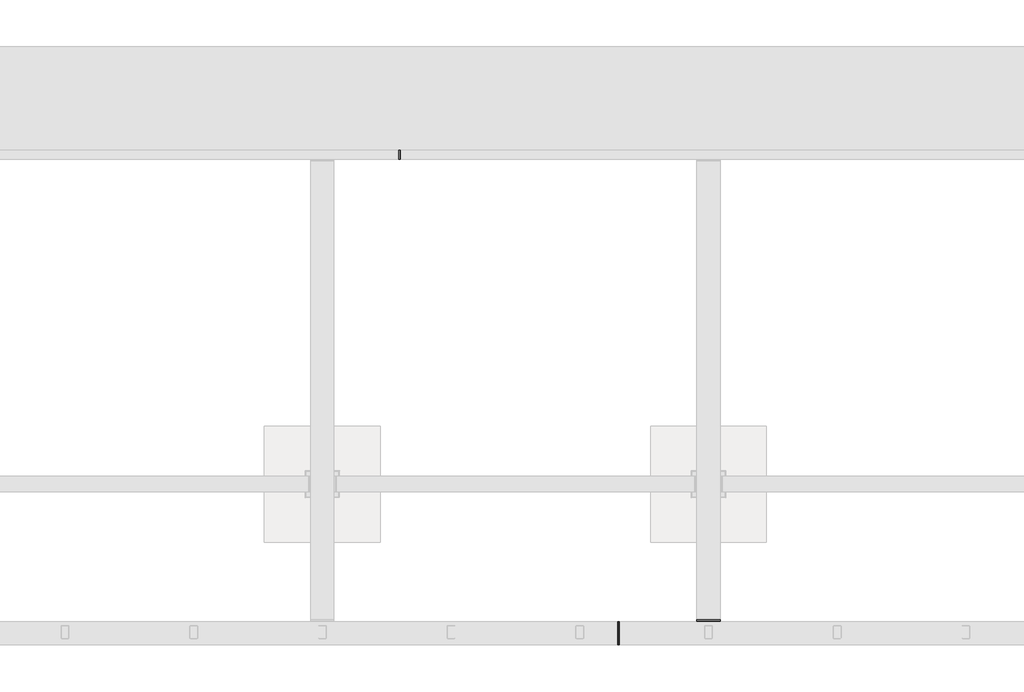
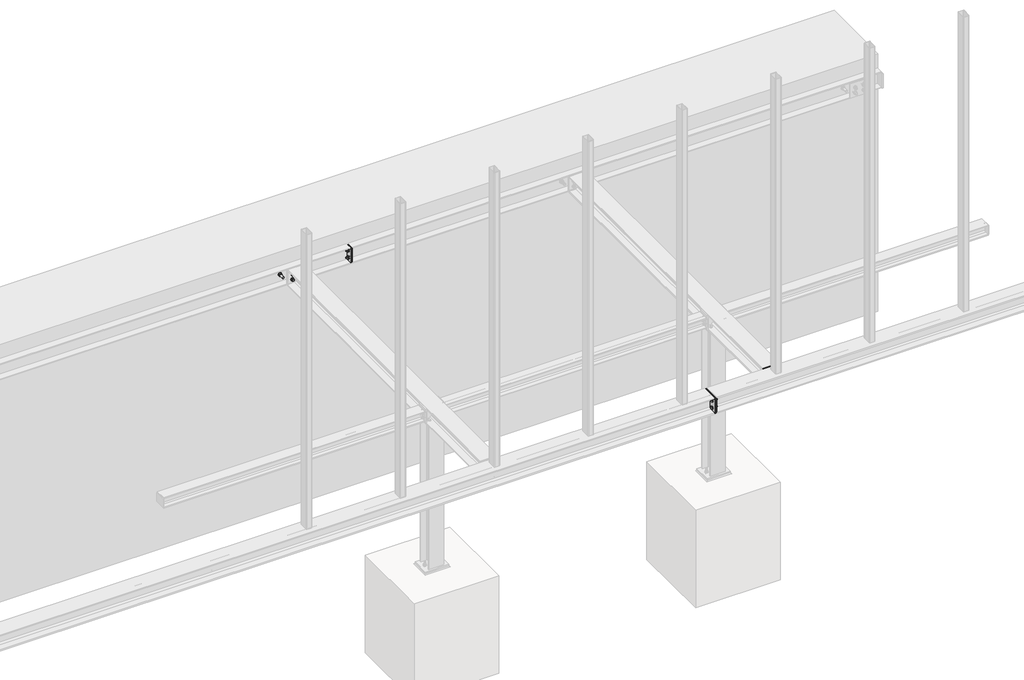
# One storey, part 9 of 31: 11 proxies.
"""IFC4 building model written with IfcOpenShell, lengths in millimetres."""

from ifc_helpers import new_model, si_unit, point, frame, frame_2d, origin, place, context, project, spatial, polyline, circle_curve, trimmed, segment, composite_curve, outline, extrude, element, save

model = new_model("IFC4")

# Units and contexts
model_context = context("Model", 3, world=origin())
ifc_project = project(units=[si_unit("LENGTHUNIT", "METRE", prefix="MILLI")], contexts=[model_context])

# Site, building, storey
site = spatial("IfcSite", under=ifc_project)
building = spatial("IfcBuilding", under=site)
storey = spatial("IfcBuildingStorey", under=building, Name="Základy", Elevation=-1200.0)

# Proxies
placement = place(None, origin())
element("IfcBuildingElementProxy", 1, Name="PLECH", ObjectType="PLECH", at=placement, inside=storey, context=model_context, shape_type="SweptSolid", body=[
    extrude(outline(polyline([(8960.0, 210.0), (9140.0, 210.0), (9140.0, 200.0), (8960.0, 200.0), (8960.0, 210.0)])), frame((0.0, 0.0, -332.0), z_axis=(0.0, 0.0, 1.0), x_axis=(1.0, 0.0, 0.0)), (0.0, 0.0, 1.0), 164.0),
])
element("IfcBuildingElementProxy", 2, Name="PLECH", ObjectType="PLECH", at=placement, inside=storey, context=model_context, shape_type="SweptSolid", body=[
    extrude(outline(polyline([(6650.0, 3855.0), (6650.0, 3785.0), (6640.0, 3785.0), (6640.0, 3855.0), (6650.0, 3855.0)])), frame((0.0, 0.0, -329.5), z_axis=(0.0, 0.0, 1.0), x_axis=(1.0, 0.0, 0.0)), (0.0, 0.0, 1.0), 159.0),
])
element("IfcBuildingElementProxy", 3, Name="PLECH", ObjectType="PLECH", at=placement, inside=storey, context=model_context, shape_type="SweptSolid", body=[
    extrude(outline(polyline([(8350.0, 190.0), (8350.0, 10.0), (8340.0, 10.0), (8340.0, 190.0), (8350.0, 190.0)])), frame((0.0, 0.0, -332.0), z_axis=(0.0, 0.0, 1.0), x_axis=(1.0, 0.0, 0.0)), (0.0, 0.0, 1.0), 164.0),
])
element("IfcBuildingElementProxy", 4, Name="PLECH", ObjectType="PLECH", at=placement, inside=storey, context=model_context, shape_type="SweptSolid", body=[
    extrude(outline(polyline([(6660.0, 3855.0), (6660.0, 3785.0), (6650.0, 3785.0), (6650.0, 3855.0), (6660.0, 3855.0)])), frame((0.0, 0.0, -329.5), z_axis=(0.0, 0.0, 1.0), x_axis=(1.0, 0.0, 0.0)), (0.0, 0.0, 1.0), 159.0),
])
element("IfcBuildingElementProxy", 5, Name="PLECH", ObjectType="PLECH", at=placement, inside=storey, context=model_context, shape_type="SweptSolid", body=[
    extrude(outline(composite_curve([segment(polyline([(190.0, -174.0), (190.0, -326.0), (124.25, -326.0)]), True, "CONTINUOUS"), segment(trimmed(circle_curve(frame_2d((104.25, -326.0)), 20.0), [point((124.25, -326.0))], [point((104.25, -306.0))], True, "CARTESIAN"), True, "CONTINUOUS"), segment(polyline([(104.25, -306.0), (104.25, -194.0)]), True, "CONTINUOUS"), segment(trimmed(circle_curve(frame_2d((104.25, -174.0)), 20.0), [point((104.25, -194.0))], [point((124.25, -174.0))], True, "CARTESIAN"), True, "CONTINUOUS"), segment(polyline([(124.25, -174.0), (190.0, -174.0)]), True, "CONTINUOUS")], self_intersect=False)), frame((9046.0, 0.0, 0.0), z_axis=(1.0, 0.0, 0.0), x_axis=(0.0, 1.0, 0.0)), (0.0, 0.0, 1.0), 8.0),
])
element("IfcBuildingElementProxy", 6, Name="PLECH", ObjectType="PLECH", at=placement, inside=storey, context=model_context, shape_type="SweptSolid", body=[
    extrude(outline(polyline([(8960.0, 200.0), (9140.0, 200.0), (9140.0, 190.0), (8960.0, 190.0), (8960.0, 200.0)])), frame((0.0, 0.0, -332.0), z_axis=(0.0, 0.0, 1.0), x_axis=(1.0, 0.0, 0.0)), (0.0, 0.0, 1.0), 164.0),
])
element("IfcBuildingElementProxy", 7, Name="PLECH", ObjectType="PLECH", at=placement, inside=storey, context=model_context, shape_type="SweptSolid", body=[
    extrude(outline(polyline([(8360.0, 190.0), (8360.0, 10.0), (8350.0, 10.0), (8350.0, 190.0), (8360.0, 190.0)])), frame((0.0, 0.0, -332.0), z_axis=(0.0, 0.0, 1.0), x_axis=(1.0, 0.0, 0.0)), (0.0, 0.0, 1.0), 164.0),
])
element("IfcBuildingElementProxy", 8, Name="Bolt assembly", ObjectType="Bolt assembly", at=placement, inside=storey, context=model_context, shape_type="SweptSolid", body=[
    extrude(outline(composite_curve([segment(trimmed(circle_curve(frame_2d((-220.0, 6005.0)), 9.0), [point((-220.0, 6014.0))], [point((-220.0, 5996.0))], False, "CARTESIAN"), True, "CONTINUOUS"), segment(trimmed(circle_curve(frame_2d((-220.0, 6005.0)), 9.0), [point((-220.0, 5996.0))], [point((-220.0, 6014.0))], False, "CARTESIAN"), True, "CONTINUOUS")], self_intersect=False)), frame((0.0, 3774.9, 0.0), z_axis=(0.0, 1.0, 0.0), x_axis=(0.0, 0.0, 1.0)), (0.0, 0.0, 1.0), 10.0),
    extrude(outline(polyline([(-220.0, 6018.8564065), (-208.0, 6011.9282032), (-208.0, 5998.0717968), (-220.0, 5991.1435935), (-232.0, 5998.0717968), (-232.0, 6011.9282032), (-220.0, 6018.8564065)])), frame((0.0, 3788.0, 0.0), z_axis=(0.0, 1.0, 0.0), x_axis=(0.0, 0.0, 1.0)), (0.0, 0.0, 1.0), 10.0),
    extrude(outline(composite_curve([segment(trimmed(circle_curve(frame_2d((-220.0, 6005.0)), 8.0), [point((-220.0, 6013.0))], [point((-220.0, 5997.0))], False, "CARTESIAN"), True, "CONTINUOUS"), segment(trimmed(circle_curve(frame_2d((-220.0, 6005.0)), 8.0), [point((-220.0, 5997.0))], [point((-220.0, 6013.0))], False, "CARTESIAN"), True, "CONTINUOUS")], self_intersect=False)), frame((0.0, 3738.0, 0.0), z_axis=(0.0, 1.0, 0.0), x_axis=(0.0, 0.0, 1.0)), (0.0, 0.0, 1.0), 50.0),
    extrude(outline(composite_curve([segment(trimmed(circle_curve(frame_2d((-220.0, 6005.0)), 15.0), [point((-220.0, 6020.0))], [point((-220.0, 5990.0))], False, "CARTESIAN"), True, "CONTINUOUS"), segment(trimmed(circle_curve(frame_2d((-220.0, 6005.0)), 15.0), [point((-220.0, 5990.0))], [point((-220.0, 6020.0))], False, "CARTESIAN"), True, "CONTINUOUS")], self_intersect=False)), frame((0.0, 3785.0, 0.0), z_axis=(0.0, 1.0, 0.0), x_axis=(0.0, 0.0, 1.0)), (0.0, 0.0, 1.0), 3.0),
    extrude(outline(composite_curve([segment(trimmed(circle_curve(frame_2d((-220.0, 6005.0)), 15.0), [point((-220.0, 6020.0))], [point((-220.0, 5990.0))], False, "CARTESIAN"), True, "CONTINUOUS"), segment(trimmed(circle_curve(frame_2d((-220.0, 6005.0)), 15.0), [point((-220.0, 5990.0))], [point((-220.0, 6020.0))], False, "CARTESIAN"), True, "CONTINUOUS")], self_intersect=False)), frame((0.0, 3764.0, 0.0), z_axis=(0.0, 1.0, 0.0), x_axis=(0.0, 0.0, 1.0)), (0.0, 0.0, 1.0), 3.0),
    extrude(outline(polyline([(-220.0, 6020.4441197), (-206.625, 6012.7220599), (-206.625, 5997.2779401), (-220.0, 5989.5558803), (-233.375, 5997.2779401), (-233.375, 6012.7220599), (-220.0, 6020.4441197)])), frame((0.0, 3751.0, 0.0), z_axis=(0.0, 1.0, 0.0), x_axis=(0.0, 0.0, 1.0)), (0.0, 0.0, 1.0), 13.0),
    extrude(outline(composite_curve([segment(trimmed(circle_curve(frame_2d((-220.0, 6005.0)), 9.0), [point((-220.0, 6014.0))], [point((-220.0, 5996.0))], False, "CARTESIAN"), True, "CONTINUOUS"), segment(trimmed(circle_curve(frame_2d((-220.0, 6005.0)), 9.0), [point((-220.0, 5996.0))], [point((-220.0, 6014.0))], False, "CARTESIAN"), True, "CONTINUOUS")], self_intersect=False)), frame((0.0, 3767.0, 0.0), z_axis=(0.0, 1.0, 0.0), x_axis=(0.0, 0.0, 1.0)), (0.0, 0.0, 1.0), 8.1),
    extrude(outline(composite_curve([segment(trimmed(circle_curve(frame_2d((-220.0, 6095.0)), 9.0), [point((-220.0, 6104.0))], [point((-220.0, 6086.0))], False, "CARTESIAN"), True, "CONTINUOUS"), segment(trimmed(circle_curve(frame_2d((-220.0, 6095.0)), 9.0), [point((-220.0, 6086.0))], [point((-220.0, 6104.0))], False, "CARTESIAN"), True, "CONTINUOUS")], self_intersect=False)), frame((0.0, 3774.9, 0.0), z_axis=(0.0, 1.0, 0.0), x_axis=(0.0, 0.0, 1.0)), (0.0, 0.0, 1.0), 10.0),
    extrude(outline(polyline([(-220.0, 6108.8564065), (-208.0, 6101.9282032), (-208.0, 6088.0717968), (-220.0, 6081.1435935), (-232.0, 6088.0717968), (-232.0, 6101.9282032), (-220.0, 6108.8564065)])), frame((0.0, 3788.0, 0.0), z_axis=(0.0, 1.0, 0.0), x_axis=(0.0, 0.0, 1.0)), (0.0, 0.0, 1.0), 10.0),
    extrude(outline(composite_curve([segment(trimmed(circle_curve(frame_2d((-220.0, 6095.0)), 8.0), [point((-220.0, 6103.0))], [point((-220.0, 6087.0))], False, "CARTESIAN"), True, "CONTINUOUS"), segment(trimmed(circle_curve(frame_2d((-220.0, 6095.0)), 8.0), [point((-220.0, 6087.0))], [point((-220.0, 6103.0))], False, "CARTESIAN"), True, "CONTINUOUS")], self_intersect=False)), frame((0.0, 3738.0, 0.0), z_axis=(0.0, 1.0, 0.0), x_axis=(0.0, 0.0, 1.0)), (0.0, 0.0, 1.0), 50.0),
    extrude(outline(composite_curve([segment(trimmed(circle_curve(frame_2d((-220.0, 6095.0)), 15.0), [point((-220.0, 6110.0))], [point((-220.0, 6080.0))], False, "CARTESIAN"), True, "CONTINUOUS"), segment(trimmed(circle_curve(frame_2d((-220.0, 6095.0)), 15.0), [point((-220.0, 6080.0))], [point((-220.0, 6110.0))], False, "CARTESIAN"), True, "CONTINUOUS")], self_intersect=False)), frame((0.0, 3785.0, 0.0), z_axis=(0.0, 1.0, 0.0), x_axis=(0.0, 0.0, 1.0)), (0.0, 0.0, 1.0), 3.0),
    extrude(outline(composite_curve([segment(trimmed(circle_curve(frame_2d((-220.0, 6095.0)), 15.0), [point((-220.0, 6110.0))], [point((-220.0, 6080.0))], False, "CARTESIAN"), True, "CONTINUOUS"), segment(trimmed(circle_curve(frame_2d((-220.0, 6095.0)), 15.0), [point((-220.0, 6080.0))], [point((-220.0, 6110.0))], False, "CARTESIAN"), True, "CONTINUOUS")], self_intersect=False)), frame((0.0, 3764.0, 0.0), z_axis=(0.0, 1.0, 0.0), x_axis=(0.0, 0.0, 1.0)), (0.0, 0.0, 1.0), 3.0),
    extrude(outline(polyline([(-220.0, 6110.4441197), (-206.625, 6102.7220599), (-206.625, 6087.2779401), (-220.0, 6079.5558803), (-233.375, 6087.2779401), (-233.375, 6102.7220599), (-220.0, 6110.4441197)])), frame((0.0, 3751.0, 0.0), z_axis=(0.0, 1.0, 0.0), x_axis=(0.0, 0.0, 1.0)), (0.0, 0.0, 1.0), 13.0),
    extrude(outline(composite_curve([segment(trimmed(circle_curve(frame_2d((-220.0, 6095.0)), 9.0), [point((-220.0, 6104.0))], [point((-220.0, 6086.0))], False, "CARTESIAN"), True, "CONTINUOUS"), segment(trimmed(circle_curve(frame_2d((-220.0, 6095.0)), 9.0), [point((-220.0, 6086.0))], [point((-220.0, 6104.0))], False, "CARTESIAN"), True, "CONTINUOUS")], self_intersect=False)), frame((0.0, 3767.0, 0.0), z_axis=(0.0, 1.0, 0.0), x_axis=(0.0, 0.0, 1.0)), (0.0, 0.0, 1.0), 8.1),
    extrude(outline(composite_curve([segment(trimmed(circle_curve(frame_2d((-280.0, 6005.0)), 9.0), [point((-280.0, 6014.0))], [point((-280.0, 5996.0))], False, "CARTESIAN"), True, "CONTINUOUS"), segment(trimmed(circle_curve(frame_2d((-280.0, 6005.0)), 9.0), [point((-280.0, 5996.0))], [point((-280.0, 6014.0))], False, "CARTESIAN"), True, "CONTINUOUS")], self_intersect=False)), frame((0.0, 3774.9, 0.0), z_axis=(0.0, 1.0, 0.0), x_axis=(0.0, 0.0, 1.0)), (0.0, 0.0, 1.0), 10.0),
    extrude(outline(polyline([(-280.0, 6018.8564065), (-268.0, 6011.9282032), (-268.0, 5998.0717968), (-280.0, 5991.1435935), (-292.0, 5998.0717968), (-292.0, 6011.9282032), (-280.0, 6018.8564065)])), frame((0.0, 3788.0, 0.0), z_axis=(0.0, 1.0, 0.0), x_axis=(0.0, 0.0, 1.0)), (0.0, 0.0, 1.0), 10.0),
    extrude(outline(composite_curve([segment(trimmed(circle_curve(frame_2d((-280.0, 6005.0)), 8.0), [point((-280.0, 6013.0))], [point((-280.0, 5997.0))], False, "CARTESIAN"), True, "CONTINUOUS"), segment(trimmed(circle_curve(frame_2d((-280.0, 6005.0)), 8.0), [point((-280.0, 5997.0))], [point((-280.0, 6013.0))], False, "CARTESIAN"), True, "CONTINUOUS")], self_intersect=False)), frame((0.0, 3738.0, 0.0), z_axis=(0.0, 1.0, 0.0), x_axis=(0.0, 0.0, 1.0)), (0.0, 0.0, 1.0), 50.0),
    extrude(outline(composite_curve([segment(trimmed(circle_curve(frame_2d((-280.0, 6005.0)), 15.0), [point((-280.0, 6020.0))], [point((-280.0, 5990.0))], False, "CARTESIAN"), True, "CONTINUOUS"), segment(trimmed(circle_curve(frame_2d((-280.0, 6005.0)), 15.0), [point((-280.0, 5990.0))], [point((-280.0, 6020.0))], False, "CARTESIAN"), True, "CONTINUOUS")], self_intersect=False)), frame((0.0, 3785.0, 0.0), z_axis=(0.0, 1.0, 0.0), x_axis=(0.0, 0.0, 1.0)), (0.0, 0.0, 1.0), 3.0),
    extrude(outline(composite_curve([segment(trimmed(circle_curve(frame_2d((-280.0, 6005.0)), 15.0), [point((-280.0, 6020.0))], [point((-280.0, 5990.0))], False, "CARTESIAN"), True, "CONTINUOUS"), segment(trimmed(circle_curve(frame_2d((-280.0, 6005.0)), 15.0), [point((-280.0, 5990.0))], [point((-280.0, 6020.0))], False, "CARTESIAN"), True, "CONTINUOUS")], self_intersect=False)), frame((0.0, 3764.0, 0.0), z_axis=(0.0, 1.0, 0.0), x_axis=(0.0, 0.0, 1.0)), (0.0, 0.0, 1.0), 3.0),
    extrude(outline(polyline([(-280.0, 6020.4441197), (-266.625, 6012.7220599), (-266.625, 5997.2779401), (-280.0, 5989.5558803), (-293.375, 5997.2779401), (-293.375, 6012.7220599), (-280.0, 6020.4441197)])), frame((0.0, 3751.0, 0.0), z_axis=(0.0, 1.0, 0.0), x_axis=(0.0, 0.0, 1.0)), (0.0, 0.0, 1.0), 13.0),
    extrude(outline(composite_curve([segment(trimmed(circle_curve(frame_2d((-280.0, 6005.0)), 9.0), [point((-280.0, 6014.0))], [point((-280.0, 5996.0))], False, "CARTESIAN"), True, "CONTINUOUS"), segment(trimmed(circle_curve(frame_2d((-280.0, 6005.0)), 9.0), [point((-280.0, 5996.0))], [point((-280.0, 6014.0))], False, "CARTESIAN"), True, "CONTINUOUS")], self_intersect=False)), frame((0.0, 3767.0, 0.0), z_axis=(0.0, 1.0, 0.0), x_axis=(0.0, 0.0, 1.0)), (0.0, 0.0, 1.0), 8.1),
    extrude(outline(composite_curve([segment(trimmed(circle_curve(frame_2d((-280.0, 6095.0)), 9.0), [point((-280.0, 6104.0))], [point((-280.0, 6086.0))], False, "CARTESIAN"), True, "CONTINUOUS"), segment(trimmed(circle_curve(frame_2d((-280.0, 6095.0)), 9.0), [point((-280.0, 6086.0))], [point((-280.0, 6104.0))], False, "CARTESIAN"), True, "CONTINUOUS")], self_intersect=False)), frame((0.0, 3774.9, 0.0), z_axis=(0.0, 1.0, 0.0), x_axis=(0.0, 0.0, 1.0)), (0.0, 0.0, 1.0), 10.0),
    extrude(outline(polyline([(-280.0, 6108.8564065), (-268.0, 6101.9282032), (-268.0, 6088.0717968), (-280.0, 6081.1435935), (-292.0, 6088.0717968), (-292.0, 6101.9282032), (-280.0, 6108.8564065)])), frame((0.0, 3788.0, 0.0), z_axis=(0.0, 1.0, 0.0), x_axis=(0.0, 0.0, 1.0)), (0.0, 0.0, 1.0), 10.0),
    extrude(outline(composite_curve([segment(trimmed(circle_curve(frame_2d((-280.0, 6095.0)), 8.0), [point((-280.0, 6103.0))], [point((-280.0, 6087.0))], False, "CARTESIAN"), True, "CONTINUOUS"), segment(trimmed(circle_curve(frame_2d((-280.0, 6095.0)), 8.0), [point((-280.0, 6087.0))], [point((-280.0, 6103.0))], False, "CARTESIAN"), True, "CONTINUOUS")], self_intersect=False)), frame((0.0, 3738.0, 0.0), z_axis=(0.0, 1.0, 0.0), x_axis=(0.0, 0.0, 1.0)), (0.0, 0.0, 1.0), 50.0),
    extrude(outline(composite_curve([segment(trimmed(circle_curve(frame_2d((-280.0, 6095.0)), 15.0), [point((-280.0, 6110.0))], [point((-280.0, 6080.0))], False, "CARTESIAN"), True, "CONTINUOUS"), segment(trimmed(circle_curve(frame_2d((-280.0, 6095.0)), 15.0), [point((-280.0, 6080.0))], [point((-280.0, 6110.0))], False, "CARTESIAN"), True, "CONTINUOUS")], self_intersect=False)), frame((0.0, 3785.0, 0.0), z_axis=(0.0, 1.0, 0.0), x_axis=(0.0, 0.0, 1.0)), (0.0, 0.0, 1.0), 3.0),
    extrude(outline(composite_curve([segment(trimmed(circle_curve(frame_2d((-280.0, 6095.0)), 15.0), [point((-280.0, 6110.0))], [point((-280.0, 6080.0))], False, "CARTESIAN"), True, "CONTINUOUS"), segment(trimmed(circle_curve(frame_2d((-280.0, 6095.0)), 15.0), [point((-280.0, 6080.0))], [point((-280.0, 6110.0))], False, "CARTESIAN"), True, "CONTINUOUS")], self_intersect=False)), frame((0.0, 3764.0, 0.0), z_axis=(0.0, 1.0, 0.0), x_axis=(0.0, 0.0, 1.0)), (0.0, 0.0, 1.0), 3.0),
    extrude(outline(polyline([(-280.0, 6110.4441197), (-266.625, 6102.7220599), (-266.625, 6087.2779401), (-280.0, 6079.5558803), (-293.375, 6087.2779401), (-293.375, 6102.7220599), (-280.0, 6110.4441197)])), frame((0.0, 3751.0, 0.0), z_axis=(0.0, 1.0, 0.0), x_axis=(0.0, 0.0, 1.0)), (0.0, 0.0, 1.0), 13.0),
    extrude(outline(composite_curve([segment(trimmed(circle_curve(frame_2d((-280.0, 6095.0)), 9.0), [point((-280.0, 6104.0))], [point((-280.0, 6086.0))], False, "CARTESIAN"), True, "CONTINUOUS"), segment(trimmed(circle_curve(frame_2d((-280.0, 6095.0)), 9.0), [point((-280.0, 6086.0))], [point((-280.0, 6104.0))], False, "CARTESIAN"), True, "CONTINUOUS")], self_intersect=False)), frame((0.0, 3767.0, 0.0), z_axis=(0.0, 1.0, 0.0), x_axis=(0.0, 0.0, 1.0)), (0.0, 0.0, 1.0), 8.1),
])
element("IfcBuildingElementProxy", 9, Name="Bolt assembly", ObjectType="Bolt assembly", at=placement, inside=storey, context=model_context, shape_type="SweptSolid", body=[
    extrude(outline(polyline([(-250.0, 5934.8149546), (-241.5, 5929.9074773), (-241.5, 5920.0925227), (-250.0, 5915.1850454), (-258.5, 5920.0925227), (-258.5, 5929.9074773), (-250.0, 5934.8149546)])), frame((0.0, 3860.0, 0.0), z_axis=(0.0, 1.0, 0.0), x_axis=(0.0, 0.0, 1.0)), (0.0, 0.0, 1.0), 168.0),
    extrude(outline(composite_curve([segment(trimmed(circle_curve(frame_2d((-250.0, 5925.0)), 10.0), [point((-250.0, 5935.0))], [point((-250.0, 5915.0))], False, "CARTESIAN"), True, "CONTINUOUS"), segment(trimmed(circle_curve(frame_2d((-250.0, 5925.0)), 10.0), [point((-250.0, 5915.0))], [point((-250.0, 5935.0))], False, "CARTESIAN"), True, "CONTINUOUS")], self_intersect=False)), frame((0.0, 3788.0, 0.0), z_axis=(0.0, 1.0, 0.0), x_axis=(0.0, 0.0, 1.0)), (0.0, 0.0, 1.0), 72.0),
    extrude(outline(composite_curve([segment(trimmed(circle_curve(frame_2d((-250.0, 5925.0)), 18.5), [point((-250.0, 5943.5))], [point((-250.0, 5906.5))], False, "CARTESIAN"), True, "CONTINUOUS"), segment(trimmed(circle_curve(frame_2d((-250.0, 5925.0)), 18.5), [point((-250.0, 5906.5))], [point((-250.0, 5943.5))], False, "CARTESIAN"), True, "CONTINUOUS")], self_intersect=False)), frame((0.0, 3851.5, 0.0), z_axis=(0.0, 1.0, 0.0), x_axis=(0.0, 0.0, 1.0)), (0.0, 0.0, 1.0), 3.0),
    extrude(outline(polyline([(-250.0, 5942.3205081), (-235.0, 5933.660254), (-235.0, 5916.339746), (-250.0, 5907.6794919), (-265.0, 5916.339746), (-265.0, 5933.660254), (-250.0, 5942.3205081)])), frame((0.0, 3835.5, 0.0), z_axis=(0.0, 1.0, 0.0), x_axis=(0.0, 0.0, 1.0)), (0.0, 0.0, 1.0), 16.0),
    extrude(outline(composite_curve([segment(trimmed(circle_curve(frame_2d((-250.0, 5925.0)), 11.0), [point((-250.0, 5936.0))], [point((-250.0, 5914.0))], False, "CARTESIAN"), True, "CONTINUOUS"), segment(trimmed(circle_curve(frame_2d((-250.0, 5925.0)), 11.0), [point((-250.0, 5914.0))], [point((-250.0, 5936.0))], False, "CARTESIAN"), True, "CONTINUOUS")], self_intersect=False)), frame((0.0, 3854.4, 0.0), z_axis=(0.0, 1.0, 0.0), x_axis=(0.0, 0.0, 1.0)), (0.0, 0.0, 1.0), 5.6),
    extrude(outline(polyline([(-250.0, 6184.8149546), (-241.5, 6179.9074773), (-241.5, 6170.0925227), (-250.0, 6165.1850454), (-258.5, 6170.0925227), (-258.5, 6179.9074773), (-250.0, 6184.8149546)])), frame((0.0, 3860.0, 0.0), z_axis=(0.0, 1.0, 0.0), x_axis=(0.0, 0.0, 1.0)), (0.0, 0.0, 1.0), 168.0),
    extrude(outline(composite_curve([segment(trimmed(circle_curve(frame_2d((-250.0, 6175.0)), 10.0), [point((-250.0, 6185.0))], [point((-250.0, 6165.0))], False, "CARTESIAN"), True, "CONTINUOUS"), segment(trimmed(circle_curve(frame_2d((-250.0, 6175.0)), 10.0), [point((-250.0, 6165.0))], [point((-250.0, 6185.0))], False, "CARTESIAN"), True, "CONTINUOUS")], self_intersect=False)), frame((0.0, 3788.0, 0.0), z_axis=(0.0, 1.0, 0.0), x_axis=(0.0, 0.0, 1.0)), (0.0, 0.0, 1.0), 72.0),
    extrude(outline(composite_curve([segment(trimmed(circle_curve(frame_2d((-250.0, 6175.0)), 18.5), [point((-250.0, 6193.5))], [point((-250.0, 6156.5))], False, "CARTESIAN"), True, "CONTINUOUS"), segment(trimmed(circle_curve(frame_2d((-250.0, 6175.0)), 18.5), [point((-250.0, 6156.5))], [point((-250.0, 6193.5))], False, "CARTESIAN"), True, "CONTINUOUS")], self_intersect=False)), frame((0.0, 3851.5, 0.0), z_axis=(0.0, 1.0, 0.0), x_axis=(0.0, 0.0, 1.0)), (0.0, 0.0, 1.0), 3.0),
    extrude(outline(polyline([(-250.0, 6192.3205081), (-235.0, 6183.660254), (-235.0, 6166.339746), (-250.0, 6157.6794919), (-265.0, 6166.339746), (-265.0, 6183.660254), (-250.0, 6192.3205081)])), frame((0.0, 3835.5, 0.0), z_axis=(0.0, 1.0, 0.0), x_axis=(0.0, 0.0, 1.0)), (0.0, 0.0, 1.0), 16.0),
    extrude(outline(composite_curve([segment(trimmed(circle_curve(frame_2d((-250.0, 6175.0)), 11.0), [point((-250.0, 6186.0))], [point((-250.0, 6164.0))], False, "CARTESIAN"), True, "CONTINUOUS"), segment(trimmed(circle_curve(frame_2d((-250.0, 6175.0)), 11.0), [point((-250.0, 6164.0))], [point((-250.0, 6186.0))], False, "CARTESIAN"), True, "CONTINUOUS")], self_intersect=False)), frame((0.0, 3854.4, 0.0), z_axis=(0.0, 1.0, 0.0), x_axis=(0.0, 0.0, 1.0)), (0.0, 0.0, 1.0), 5.6),
])
element("IfcBuildingElementProxy", 10, Name="Bolt assembly", ObjectType="Bolt assembly", at=placement, inside=storey, context=model_context, shape_type="SweptSolid", body=[
    extrude(outline(composite_curve([segment(trimmed(circle_curve(frame_2d((3820.5, -290.0)), 9.0), [point((3829.5, -290.0))], [point((3811.5, -290.0))], False, "CARTESIAN"), True, "CONTINUOUS"), segment(trimmed(circle_curve(frame_2d((3820.5, -290.0)), 9.0), [point((3811.5, -290.0))], [point((3829.5, -290.0))], False, "CARTESIAN"), True, "CONTINUOUS")], self_intersect=False)), frame((6649.9, 0.0, 0.0), z_axis=(1.0, 0.0, 0.0), x_axis=(0.0, 1.0, 0.0)), (0.0, 0.0, 1.0), 10.0),
    extrude(outline(polyline([(3834.3564065, -290.0), (3827.4282032, -302.0), (3813.5717968, -302.0), (3806.6435935, -290.0), (3813.5717968, -278.0), (3827.4282032, -278.0), (3834.3564065, -290.0)])), frame((6663.0, 0.0, 0.0), z_axis=(1.0, 0.0, 0.0), x_axis=(0.0, 1.0, 0.0)), (0.0, 0.0, 1.0), 10.0),
    extrude(outline(composite_curve([segment(trimmed(circle_curve(frame_2d((3820.5, -290.0)), 8.0), [point((3828.5, -290.0))], [point((3812.5, -290.0))], False, "CARTESIAN"), True, "CONTINUOUS"), segment(trimmed(circle_curve(frame_2d((3820.5, -290.0)), 8.0), [point((3812.5, -290.0))], [point((3828.5, -290.0))], False, "CARTESIAN"), True, "CONTINUOUS")], self_intersect=False)), frame((6613.0, 0.0, 0.0), z_axis=(1.0, 0.0, 0.0), x_axis=(0.0, 1.0, 0.0)), (0.0, 0.0, 1.0), 50.0),
    extrude(outline(composite_curve([segment(trimmed(circle_curve(frame_2d((3820.5, -290.0)), 15.0), [point((3835.5, -290.0))], [point((3805.5, -290.0))], False, "CARTESIAN"), True, "CONTINUOUS"), segment(trimmed(circle_curve(frame_2d((3820.5, -290.0)), 15.0), [point((3805.5, -290.0))], [point((3835.5, -290.0))], False, "CARTESIAN"), True, "CONTINUOUS")], self_intersect=False)), frame((6660.0, 0.0, 0.0), z_axis=(1.0, 0.0, 0.0), x_axis=(0.0, 1.0, 0.0)), (0.0, 0.0, 1.0), 3.0),
    extrude(outline(composite_curve([segment(trimmed(circle_curve(frame_2d((3820.5, -290.0)), 15.0), [point((3835.5, -290.0))], [point((3805.5, -290.0))], False, "CARTESIAN"), True, "CONTINUOUS"), segment(trimmed(circle_curve(frame_2d((3820.5, -290.0)), 15.0), [point((3805.5, -290.0))], [point((3835.5, -290.0))], False, "CARTESIAN"), True, "CONTINUOUS")], self_intersect=False)), frame((6637.0, 0.0, 0.0), z_axis=(1.0, 0.0, 0.0), x_axis=(0.0, 1.0, 0.0)), (0.0, 0.0, 1.0), 3.0),
    extrude(outline(polyline([(3835.9441197, -290.0), (3828.2220599, -303.375), (3812.7779401, -303.375), (3805.0558803, -290.0), (3812.7779401, -276.625), (3828.2220599, -276.625), (3835.9441197, -290.0)])), frame((6624.0, 0.0, 0.0), z_axis=(1.0, 0.0, 0.0), x_axis=(0.0, 1.0, 0.0)), (0.0, 0.0, 1.0), 13.0),
    extrude(outline(composite_curve([segment(trimmed(circle_curve(frame_2d((3820.5, -290.0)), 9.0), [point((3829.5, -290.0))], [point((3811.5, -290.0))], False, "CARTESIAN"), True, "CONTINUOUS"), segment(trimmed(circle_curve(frame_2d((3820.5, -290.0)), 9.0), [point((3811.5, -290.0))], [point((3829.5, -290.0))], False, "CARTESIAN"), True, "CONTINUOUS")], self_intersect=False)), frame((6640.0, 0.0, 0.0), z_axis=(1.0, 0.0, 0.0), x_axis=(0.0, 1.0, 0.0)), (0.0, 0.0, 1.0), 10.1),
    extrude(outline(composite_curve([segment(trimmed(circle_curve(frame_2d((3820.5, -210.0)), 9.0), [point((3829.5, -210.0))], [point((3811.5, -210.0))], False, "CARTESIAN"), True, "CONTINUOUS"), segment(trimmed(circle_curve(frame_2d((3820.5, -210.0)), 9.0), [point((3811.5, -210.0))], [point((3829.5, -210.0))], False, "CARTESIAN"), True, "CONTINUOUS")], self_intersect=False)), frame((6649.9, 0.0, 0.0), z_axis=(1.0, 0.0, 0.0), x_axis=(0.0, 1.0, 0.0)), (0.0, 0.0, 1.0), 10.0),
    extrude(outline(polyline([(3834.3564065, -210.0), (3827.4282032, -222.0), (3813.5717968, -222.0), (3806.6435935, -210.0), (3813.5717968, -198.0), (3827.4282032, -198.0), (3834.3564065, -210.0)])), frame((6663.0, 0.0, 0.0), z_axis=(1.0, 0.0, 0.0), x_axis=(0.0, 1.0, 0.0)), (0.0, 0.0, 1.0), 10.0),
    extrude(outline(composite_curve([segment(trimmed(circle_curve(frame_2d((3820.5, -210.0)), 8.0), [point((3828.5, -210.0))], [point((3812.5, -210.0))], False, "CARTESIAN"), True, "CONTINUOUS"), segment(trimmed(circle_curve(frame_2d((3820.5, -210.0)), 8.0), [point((3812.5, -210.0))], [point((3828.5, -210.0))], False, "CARTESIAN"), True, "CONTINUOUS")], self_intersect=False)), frame((6613.0, 0.0, 0.0), z_axis=(1.0, 0.0, 0.0), x_axis=(0.0, 1.0, 0.0)), (0.0, 0.0, 1.0), 50.0),
    extrude(outline(composite_curve([segment(trimmed(circle_curve(frame_2d((3820.5, -210.0)), 15.0), [point((3835.5, -210.0))], [point((3805.5, -210.0))], False, "CARTESIAN"), True, "CONTINUOUS"), segment(trimmed(circle_curve(frame_2d((3820.5, -210.0)), 15.0), [point((3805.5, -210.0))], [point((3835.5, -210.0))], False, "CARTESIAN"), True, "CONTINUOUS")], self_intersect=False)), frame((6660.0, 0.0, 0.0), z_axis=(1.0, 0.0, 0.0), x_axis=(0.0, 1.0, 0.0)), (0.0, 0.0, 1.0), 3.0),
    extrude(outline(composite_curve([segment(trimmed(circle_curve(frame_2d((3820.5, -210.0)), 15.0), [point((3835.5, -210.0))], [point((3805.5, -210.0))], False, "CARTESIAN"), True, "CONTINUOUS"), segment(trimmed(circle_curve(frame_2d((3820.5, -210.0)), 15.0), [point((3805.5, -210.0))], [point((3835.5, -210.0))], False, "CARTESIAN"), True, "CONTINUOUS")], self_intersect=False)), frame((6637.0, 0.0, 0.0), z_axis=(1.0, 0.0, 0.0), x_axis=(0.0, 1.0, 0.0)), (0.0, 0.0, 1.0), 3.0),
    extrude(outline(polyline([(3835.9441197, -210.0), (3828.2220599, -223.375), (3812.7779401, -223.375), (3805.0558803, -210.0), (3812.7779401, -196.625), (3828.2220599, -196.625), (3835.9441197, -210.0)])), frame((6624.0, 0.0, 0.0), z_axis=(1.0, 0.0, 0.0), x_axis=(0.0, 1.0, 0.0)), (0.0, 0.0, 1.0), 13.0),
    extrude(outline(composite_curve([segment(trimmed(circle_curve(frame_2d((3820.5, -210.0)), 9.0), [point((3829.5, -210.0))], [point((3811.5, -210.0))], False, "CARTESIAN"), True, "CONTINUOUS"), segment(trimmed(circle_curve(frame_2d((3820.5, -210.0)), 9.0), [point((3811.5, -210.0))], [point((3829.5, -210.0))], False, "CARTESIAN"), True, "CONTINUOUS")], self_intersect=False)), frame((6640.0, 0.0, 0.0), z_axis=(1.0, 0.0, 0.0), x_axis=(0.0, 1.0, 0.0)), (0.0, 0.0, 1.0), 10.1),
])
element("IfcBuildingElementProxy", 11, Name="Bolt assembly", ObjectType="Bolt assembly", at=placement, inside=storey, context=model_context, shape_type="SweptSolid", body=[
    extrude(outline(composite_curve([segment(trimmed(circle_curve(frame_2d((150.0, -290.0)), 9.0), [point((141.0, -290.0))], [point((159.0, -290.0))], False, "CARTESIAN"), True, "CONTINUOUS"), segment(trimmed(circle_curve(frame_2d((150.0, -290.0)), 9.0), [point((159.0, -290.0))], [point((141.0, -290.0))], False, "CARTESIAN"), True, "CONTINUOUS")], self_intersect=False)), frame((8349.9, 0.0, 0.0), z_axis=(1.0, 0.0, 0.0), x_axis=(0.0, 1.0, 0.0)), (0.0, 0.0, 1.0), 10.1),
    extrude(outline(polyline([(136.1435935, -290.0), (143.0717968, -278.0), (156.9282032, -278.0), (163.8564065, -290.0), (156.9282032, -302.0), (143.0717968, -302.0), (136.1435935, -290.0)])), frame((8327.0, 0.0, 0.0), z_axis=(1.0, 0.0, 0.0), x_axis=(0.0, 1.0, 0.0)), (0.0, 0.0, 1.0), 10.0),
    extrude(outline(composite_curve([segment(trimmed(circle_curve(frame_2d((150.0, -290.0)), 8.0), [point((142.0, -290.0))], [point((158.0, -290.0))], False, "CARTESIAN"), True, "CONTINUOUS"), segment(trimmed(circle_curve(frame_2d((150.0, -290.0)), 8.0), [point((158.0, -290.0))], [point((142.0, -290.0))], False, "CARTESIAN"), True, "CONTINUOUS")], self_intersect=False)), frame((8337.0, 0.0, 0.0), z_axis=(1.0, 0.0, 0.0), x_axis=(0.0, 1.0, 0.0)), (0.0, 0.0, 1.0), 50.0),
    extrude(outline(composite_curve([segment(trimmed(circle_curve(frame_2d((150.0, -290.0)), 15.0), [point((135.0, -290.0))], [point((165.0, -290.0))], False, "CARTESIAN"), True, "CONTINUOUS"), segment(trimmed(circle_curve(frame_2d((150.0, -290.0)), 15.0), [point((165.0, -290.0))], [point((135.0, -290.0))], False, "CARTESIAN"), True, "CONTINUOUS")], self_intersect=False)), frame((8337.0, 0.0, 0.0), z_axis=(1.0, 0.0, 0.0), x_axis=(0.0, 1.0, 0.0)), (0.0, 0.0, 1.0), 3.0),
    extrude(outline(composite_curve([segment(trimmed(circle_curve(frame_2d((150.0, -290.0)), 15.0), [point((135.0, -290.0))], [point((165.0, -290.0))], False, "CARTESIAN"), True, "CONTINUOUS"), segment(trimmed(circle_curve(frame_2d((150.0, -290.0)), 15.0), [point((165.0, -290.0))], [point((135.0, -290.0))], False, "CARTESIAN"), True, "CONTINUOUS")], self_intersect=False)), frame((8360.0, 0.0, 0.0), z_axis=(1.0, 0.0, 0.0), x_axis=(0.0, 1.0, 0.0)), (0.0, 0.0, 1.0), 3.0),
    extrude(outline(polyline([(134.5558803, -290.0), (142.2779401, -276.625), (157.7220599, -276.625), (165.4441197, -290.0), (157.7220599, -303.375), (142.2779401, -303.375), (134.5558803, -290.0)])), frame((8363.0, 0.0, 0.0), z_axis=(1.0, 0.0, 0.0), x_axis=(0.0, 1.0, 0.0)), (0.0, 0.0, 1.0), 13.0),
    extrude(outline(composite_curve([segment(trimmed(circle_curve(frame_2d((150.0, -290.0)), 9.0), [point((141.0, -290.0))], [point((159.0, -290.0))], False, "CARTESIAN"), True, "CONTINUOUS"), segment(trimmed(circle_curve(frame_2d((150.0, -290.0)), 9.0), [point((159.0, -290.0))], [point((141.0, -290.0))], False, "CARTESIAN"), True, "CONTINUOUS")], self_intersect=False)), frame((8340.1, 0.0, 0.0), z_axis=(1.0, 0.0, 0.0), x_axis=(0.0, 1.0, 0.0)), (0.0, 0.0, 1.0), 10.0),
    extrude(outline(composite_curve([segment(trimmed(circle_curve(frame_2d((50.0, -290.0)), 9.0), [point((41.0, -290.0))], [point((59.0, -290.0))], False, "CARTESIAN"), True, "CONTINUOUS"), segment(trimmed(circle_curve(frame_2d((50.0, -290.0)), 9.0), [point((59.0, -290.0))], [point((41.0, -290.0))], False, "CARTESIAN"), True, "CONTINUOUS")], self_intersect=False)), frame((8349.9, 0.0, 0.0), z_axis=(1.0, 0.0, 0.0), x_axis=(0.0, 1.0, 0.0)), (0.0, 0.0, 1.0), 10.1),
    extrude(outline(polyline([(36.1435935, -290.0), (43.0717968, -278.0), (56.9282032, -278.0), (63.8564065, -290.0), (56.9282032, -302.0), (43.0717968, -302.0), (36.1435935, -290.0)])), frame((8327.0, 0.0, 0.0), z_axis=(1.0, 0.0, 0.0), x_axis=(0.0, 1.0, 0.0)), (0.0, 0.0, 1.0), 10.0),
    extrude(outline(composite_curve([segment(trimmed(circle_curve(frame_2d((50.0, -290.0)), 8.0), [point((42.0, -290.0))], [point((58.0, -290.0))], False, "CARTESIAN"), True, "CONTINUOUS"), segment(trimmed(circle_curve(frame_2d((50.0, -290.0)), 8.0), [point((58.0, -290.0))], [point((42.0, -290.0))], False, "CARTESIAN"), True, "CONTINUOUS")], self_intersect=False)), frame((8337.0, 0.0, 0.0), z_axis=(1.0, 0.0, 0.0), x_axis=(0.0, 1.0, 0.0)), (0.0, 0.0, 1.0), 50.0),
    extrude(outline(composite_curve([segment(trimmed(circle_curve(frame_2d((50.0, -290.0)), 15.0), [point((35.0, -290.0))], [point((65.0, -290.0))], False, "CARTESIAN"), True, "CONTINUOUS"), segment(trimmed(circle_curve(frame_2d((50.0, -290.0)), 15.0), [point((65.0, -290.0))], [point((35.0, -290.0))], False, "CARTESIAN"), True, "CONTINUOUS")], self_intersect=False)), frame((8337.0, 0.0, 0.0), z_axis=(1.0, 0.0, 0.0), x_axis=(0.0, 1.0, 0.0)), (0.0, 0.0, 1.0), 3.0),
    extrude(outline(composite_curve([segment(trimmed(circle_curve(frame_2d((50.0, -290.0)), 15.0), [point((35.0, -290.0))], [point((65.0, -290.0))], False, "CARTESIAN"), True, "CONTINUOUS"), segment(trimmed(circle_curve(frame_2d((50.0, -290.0)), 15.0), [point((65.0, -290.0))], [point((35.0, -290.0))], False, "CARTESIAN"), True, "CONTINUOUS")], self_intersect=False)), frame((8360.0, 0.0, 0.0), z_axis=(1.0, 0.0, 0.0), x_axis=(0.0, 1.0, 0.0)), (0.0, 0.0, 1.0), 3.0),
    extrude(outline(polyline([(34.5558803, -290.0), (42.2779401, -276.625), (57.7220599, -276.625), (65.4441197, -290.0), (57.7220599, -303.375), (42.2779401, -303.375), (34.5558803, -290.0)])), frame((8363.0, 0.0, 0.0), z_axis=(1.0, 0.0, 0.0), x_axis=(0.0, 1.0, 0.0)), (0.0, 0.0, 1.0), 13.0),
    extrude(outline(composite_curve([segment(trimmed(circle_curve(frame_2d((50.0, -290.0)), 9.0), [point((41.0, -290.0))], [point((59.0, -290.0))], False, "CARTESIAN"), True, "CONTINUOUS"), segment(trimmed(circle_curve(frame_2d((50.0, -290.0)), 9.0), [point((59.0, -290.0))], [point((41.0, -290.0))], False, "CARTESIAN"), True, "CONTINUOUS")], self_intersect=False)), frame((8340.1, 0.0, 0.0), z_axis=(1.0, 0.0, 0.0), x_axis=(0.0, 1.0, 0.0)), (0.0, 0.0, 1.0), 10.0),
    extrude(outline(composite_curve([segment(trimmed(circle_curve(frame_2d((150.0, -210.0)), 9.0), [point((141.0, -210.0))], [point((159.0, -210.0))], False, "CARTESIAN"), True, "CONTINUOUS"), segment(trimmed(circle_curve(frame_2d((150.0, -210.0)), 9.0), [point((159.0, -210.0))], [point((141.0, -210.0))], False, "CARTESIAN"), True, "CONTINUOUS")], self_intersect=False)), frame((8349.9, 0.0, 0.0), z_axis=(1.0, 0.0, 0.0), x_axis=(0.0, 1.0, 0.0)), (0.0, 0.0, 1.0), 10.1),
    extrude(outline(polyline([(136.1435935, -210.0), (143.0717968, -198.0), (156.9282032, -198.0), (163.8564065, -210.0), (156.9282032, -222.0), (143.0717968, -222.0), (136.1435935, -210.0)])), frame((8327.0, 0.0, 0.0), z_axis=(1.0, 0.0, 0.0), x_axis=(0.0, 1.0, 0.0)), (0.0, 0.0, 1.0), 10.0),
    extrude(outline(composite_curve([segment(trimmed(circle_curve(frame_2d((150.0, -210.0)), 8.0), [point((142.0, -210.0))], [point((158.0, -210.0))], False, "CARTESIAN"), True, "CONTINUOUS"), segment(trimmed(circle_curve(frame_2d((150.0, -210.0)), 8.0), [point((158.0, -210.0))], [point((142.0, -210.0))], False, "CARTESIAN"), True, "CONTINUOUS")], self_intersect=False)), frame((8337.0, 0.0, 0.0), z_axis=(1.0, 0.0, 0.0), x_axis=(0.0, 1.0, 0.0)), (0.0, 0.0, 1.0), 50.0),
    extrude(outline(composite_curve([segment(trimmed(circle_curve(frame_2d((150.0, -210.0)), 15.0), [point((135.0, -210.0))], [point((165.0, -210.0))], False, "CARTESIAN"), True, "CONTINUOUS"), segment(trimmed(circle_curve(frame_2d((150.0, -210.0)), 15.0), [point((165.0, -210.0))], [point((135.0, -210.0))], False, "CARTESIAN"), True, "CONTINUOUS")], self_intersect=False)), frame((8337.0, 0.0, 0.0), z_axis=(1.0, 0.0, 0.0), x_axis=(0.0, 1.0, 0.0)), (0.0, 0.0, 1.0), 3.0),
    extrude(outline(composite_curve([segment(trimmed(circle_curve(frame_2d((150.0, -210.0)), 15.0), [point((135.0, -210.0))], [point((165.0, -210.0))], False, "CARTESIAN"), True, "CONTINUOUS"), segment(trimmed(circle_curve(frame_2d((150.0, -210.0)), 15.0), [point((165.0, -210.0))], [point((135.0, -210.0))], False, "CARTESIAN"), True, "CONTINUOUS")], self_intersect=False)), frame((8360.0, 0.0, 0.0), z_axis=(1.0, 0.0, 0.0), x_axis=(0.0, 1.0, 0.0)), (0.0, 0.0, 1.0), 3.0),
    extrude(outline(polyline([(134.5558803, -210.0), (142.2779401, -196.625), (157.7220599, -196.625), (165.4441197, -210.0), (157.7220599, -223.375), (142.2779401, -223.375), (134.5558803, -210.0)])), frame((8363.0, 0.0, 0.0), z_axis=(1.0, 0.0, 0.0), x_axis=(0.0, 1.0, 0.0)), (0.0, 0.0, 1.0), 13.0),
    extrude(outline(composite_curve([segment(trimmed(circle_curve(frame_2d((150.0, -210.0)), 9.0), [point((141.0, -210.0))], [point((159.0, -210.0))], False, "CARTESIAN"), True, "CONTINUOUS"), segment(trimmed(circle_curve(frame_2d((150.0, -210.0)), 9.0), [point((159.0, -210.0))], [point((141.0, -210.0))], False, "CARTESIAN"), True, "CONTINUOUS")], self_intersect=False)), frame((8340.1, 0.0, 0.0), z_axis=(1.0, 0.0, 0.0), x_axis=(0.0, 1.0, 0.0)), (0.0, 0.0, 1.0), 10.0),
    extrude(outline(composite_curve([segment(trimmed(circle_curve(frame_2d((50.0, -210.0)), 9.0), [point((41.0, -210.0))], [point((59.0, -210.0))], False, "CARTESIAN"), True, "CONTINUOUS"), segment(trimmed(circle_curve(frame_2d((50.0, -210.0)), 9.0), [point((59.0, -210.0))], [point((41.0, -210.0))], False, "CARTESIAN"), True, "CONTINUOUS")], self_intersect=False)), frame((8349.9, 0.0, 0.0), z_axis=(1.0, 0.0, 0.0), x_axis=(0.0, 1.0, 0.0)), (0.0, 0.0, 1.0), 10.1),
    extrude(outline(polyline([(36.1435935, -210.0), (43.0717968, -198.0), (56.9282032, -198.0), (63.8564065, -210.0), (56.9282032, -222.0), (43.0717968, -222.0), (36.1435935, -210.0)])), frame((8327.0, 0.0, 0.0), z_axis=(1.0, 0.0, 0.0), x_axis=(0.0, 1.0, 0.0)), (0.0, 0.0, 1.0), 10.0),
    extrude(outline(composite_curve([segment(trimmed(circle_curve(frame_2d((50.0, -210.0)), 8.0), [point((42.0, -210.0))], [point((58.0, -210.0))], False, "CARTESIAN"), True, "CONTINUOUS"), segment(trimmed(circle_curve(frame_2d((50.0, -210.0)), 8.0), [point((58.0, -210.0))], [point((42.0, -210.0))], False, "CARTESIAN"), True, "CONTINUOUS")], self_intersect=False)), frame((8337.0, 0.0, 0.0), z_axis=(1.0, 0.0, 0.0), x_axis=(0.0, 1.0, 0.0)), (0.0, 0.0, 1.0), 50.0),
    extrude(outline(composite_curve([segment(trimmed(circle_curve(frame_2d((50.0, -210.0)), 15.0), [point((35.0, -210.0))], [point((65.0, -210.0))], False, "CARTESIAN"), True, "CONTINUOUS"), segment(trimmed(circle_curve(frame_2d((50.0, -210.0)), 15.0), [point((65.0, -210.0))], [point((35.0, -210.0))], False, "CARTESIAN"), True, "CONTINUOUS")], self_intersect=False)), frame((8337.0, 0.0, 0.0), z_axis=(1.0, 0.0, 0.0), x_axis=(0.0, 1.0, 0.0)), (0.0, 0.0, 1.0), 3.0),
    extrude(outline(composite_curve([segment(trimmed(circle_curve(frame_2d((50.0, -210.0)), 15.0), [point((35.0, -210.0))], [point((65.0, -210.0))], False, "CARTESIAN"), True, "CONTINUOUS"), segment(trimmed(circle_curve(frame_2d((50.0, -210.0)), 15.0), [point((65.0, -210.0))], [point((35.0, -210.0))], False, "CARTESIAN"), True, "CONTINUOUS")], self_intersect=False)), frame((8360.0, 0.0, 0.0), z_axis=(1.0, 0.0, 0.0), x_axis=(0.0, 1.0, 0.0)), (0.0, 0.0, 1.0), 3.0),
    extrude(outline(polyline([(34.5558803, -210.0), (42.2779401, -196.625), (57.7220599, -196.625), (65.4441197, -210.0), (57.7220599, -223.375), (42.2779401, -223.375), (34.5558803, -210.0)])), frame((8363.0, 0.0, 0.0), z_axis=(1.0, 0.0, 0.0), x_axis=(0.0, 1.0, 0.0)), (0.0, 0.0, 1.0), 13.0),
    extrude(outline(composite_curve([segment(trimmed(circle_curve(frame_2d((50.0, -210.0)), 9.0), [point((41.0, -210.0))], [point((59.0, -210.0))], False, "CARTESIAN"), True, "CONTINUOUS"), segment(trimmed(circle_curve(frame_2d((50.0, -210.0)), 9.0), [point((59.0, -210.0))], [point((41.0, -210.0))], False, "CARTESIAN"), True, "CONTINUOUS")], self_intersect=False)), frame((8340.1, 0.0, 0.0), z_axis=(1.0, 0.0, 0.0), x_axis=(0.0, 1.0, 0.0)), (0.0, 0.0, 1.0), 10.0),
])

save(model, "model.ifc")
